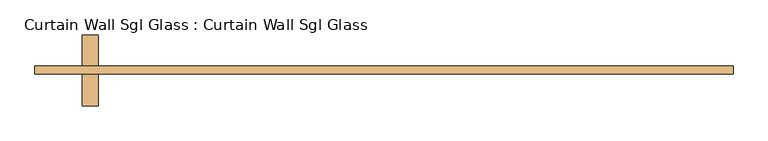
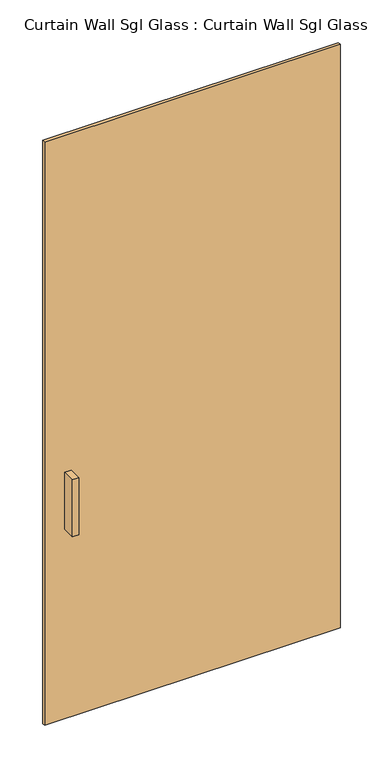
"""IFC4 building model written with IfcOpenShell, lengths in millimetres: door geometry, Curtain Wall Sgl Glass : Curtain Wall Sgl Glass."""

import ifcopenshell
import ifcopenshell.guid

model = None  # the IFC model being written
_history = None  # IfcOwnerHistory: only IFC2X3 demands one
_inside = {}  # id of a spatial element -> (the spatial element, [elements in it])
_under = {}  # id of a project, library or spatial element -> (it, [spatial elements below it])
_declared = {}  # id of a project -> (the project, [libraries it declares])
_typed = {}  # id of a type object -> (the type object, [elements of that type])
_made_of = {}  # id of a material, layer set ... -> (it, [elements and type objects made of it])


def new_model(schema):
    """Start an empty IFC model of exactly this schema.

    Asked for "IFC4X3", IfcOpenShell would pick the latest addendum, in which some entities
    have other attributes; the version numbers below select the first issue.
    IFC2X3 requires an IfcOwnerHistory on every rooted entity: one is made here for all.
    """
    global model, _history
    if schema == "IFC4X3":
        model = ifcopenshell.file(schema_version=(4, 3, 0, 0))
    else:
        model = ifcopenshell.file(schema=schema)
    _inside.clear()
    _under.clear()
    _declared.clear()
    _typed.clear()
    _made_of.clear()
    _history = None
    if model.schema == "IFC2X3":
        org = make("IfcOrganization", Name="unknown")
        user = make(
            "IfcPersonAndOrganization",
            ThePerson=make("IfcPerson", FamilyName="unknown"),
            TheOrganization=org,
        )
        app = make(
            "IfcApplication",
            ApplicationDeveloper=org,
            Version="unknown",
            ApplicationFullName="unknown",
            ApplicationIdentifier="unknown",
        )
        _history = make(
            "IfcOwnerHistory",
            OwningUser=user,
            OwningApplication=app,
            ChangeAction="ADDED",
            CreationDate=0,
        )
    return model


def make(cls, **values):
    """One entity of the class cls with the attributes given. An attribute that is None is left unset."""
    return model.create_entity(
        cls, **{name: value for name, value in values.items() if value is not None}
    )


def rooted(cls, **values):
    """An entity with a GlobalId (a new one), such as an element, a storey or a relation."""
    return make(cls, GlobalId=ifcopenshell.guid.new(), OwnerHistory=_history, **values)


def si_unit(unit_type, name, prefix=None):
    """IfcSIUnit, for example si_unit("LENGTHUNIT", "METRE", prefix="MILLI")."""
    return make("IfcSIUnit", UnitType=unit_type, Prefix=prefix, Name=name)


def assignment(units):
    """IfcUnitAssignment: the units of a project."""
    return None if units is None else make("IfcUnitAssignment", Units=units)


def point(xyz):
    """IfcCartesianPoint."""
    return None if xyz is None else make("IfcCartesianPoint", Coordinates=xyz)


def direction(xyz):
    """IfcDirection."""
    return None if xyz is None else make("IfcDirection", DirectionRatios=xyz)


def frame(location, z_axis=None, x_axis=None):
    """IfcAxis2Placement3D, a coordinate frame: its origin and axes. An axis left out is left unset."""
    return make(
        "IfcAxis2Placement3D",
        Location=point(location),
        Axis=direction(z_axis),
        RefDirection=direction(x_axis),
    )


def origin():
    """The frame at (0, 0, 0) with its axes left unset."""
    return frame((0.0, 0.0, 0.0))


def origin_with_axes():
    """The frame at (0, 0, 0) with the z axis (0, 0, 1) and the x axis (1, 0, 0) written out."""
    return frame((0.0, 0.0, 0.0), z_axis=(0.0, 0.0, 1.0), x_axis=(1.0, 0.0, 0.0))


def place(relative_to, where):
    """IfcLocalPlacement: puts the frame where relative to a parent placement (None: the world)."""
    return make(
        "IfcLocalPlacement", PlacementRelTo=relative_to, RelativePlacement=where
    )


def context(
    kind, dimensions, precision=None, world=None, true_north=None, identifier=None
):
    """IfcGeometricRepresentationContext, for example the 3D "Model" context."""
    return make(
        "IfcGeometricRepresentationContext",
        ContextIdentifier=identifier,
        ContextType=kind,
        CoordinateSpaceDimension=dimensions,
        Precision=precision,
        WorldCoordinateSystem=world,
        TrueNorth=true_north,
    )


def project(units=None, contexts=None):
    """IfcProject with its units and contexts."""
    return rooted(
        "IfcProject",
        Name="project",
        RepresentationContexts=contexts,
        UnitsInContext=assignment(units),
    )


def spatial(cls, under=None, at=None, **own):
    """A site, building, storey or space (cls), placed at a placement, below another one or the project."""
    s = rooted(cls, ObjectPlacement=at, **own)
    if under is not None:
        _under.setdefault(under.id(), (under, []))[1].append(s)
    return s


def polyline(points):
    """IfcPolyline through the points."""
    return make("IfcPolyline", Points=[point(p) for p in points])


def outline(outer, holes=None, kind="AREA"):
    """IfcArbitraryClosedProfileDef: a profile drawn as a closed curve; with holes, ...WithVoids."""
    if holes is None:
        return make("IfcArbitraryClosedProfileDef", ProfileType=kind, OuterCurve=outer)
    return make(
        "IfcArbitraryProfileDefWithVoids",
        ProfileType=kind,
        OuterCurve=outer,
        InnerCurves=holes,
    )


def extrude(swept, where, along, depth):
    """IfcExtrudedAreaSolid: the profile swept, set in the frame where, extruded along a direction by depth."""
    return make(
        "IfcExtrudedAreaSolid",
        SweptArea=swept,
        Position=where,
        ExtrudedDirection=direction(along),
        Depth=depth,
    )


def shape(context_of_items, identifier, shape_type, items):
    """IfcShapeRepresentation: the items that make up one representation, for example the "Body"."""
    return make(
        "IfcShapeRepresentation",
        ContextOfItems=context_of_items,
        RepresentationIdentifier=identifier,
        RepresentationType=shape_type,
        Items=items,
    )


def source(mapping_origin, context_of_items, identifier, shape_type, items):
    """IfcRepresentationMap: a shape defined once, which mapped items show again and again."""
    return make(
        "IfcRepresentationMap",
        MappingOrigin=mapping_origin,
        MappedRepresentation=shape(context_of_items, identifier, shape_type, items),
    )


def transform(
    local_origin,
    x_axis=None,
    y_axis=None,
    z_axis=None,
    scale=None,
    scale2=None,
    scale3=None,
    uniform=True,
):
    """IfcCartesianTransformationOperator3D, or its non-uniform kind. x_axis, y_axis, z_axis: its Axis1, 2, 3."""
    if uniform:
        return make(
            "IfcCartesianTransformationOperator3D",
            Axis1=direction(x_axis),
            Axis2=direction(y_axis),
            LocalOrigin=point(local_origin),
            Scale=scale,
            Axis3=direction(z_axis),
        )
    return make(
        "IfcCartesianTransformationOperator3DnonUniform",
        Axis1=direction(x_axis),
        Axis2=direction(y_axis),
        LocalOrigin=point(local_origin),
        Scale=scale,
        Axis3=direction(z_axis),
        Scale2=scale2,
        Scale3=scale3,
    )


def mapped(mapping_source, mapping_target):
    """IfcMappedItem: shows the shape of a source again, moved by a transform."""
    return make(
        "IfcMappedItem", MappingSource=mapping_source, MappingTarget=mapping_target
    )


def made_of(thing, what):
    """Note that an element or type object is made of a material, layer set ...; save() writes the relation."""
    if what is not None:
        _made_of.setdefault(what.id(), (what, []))[1].append(thing)
    return thing


def element(
    cls,
    number,
    at=None,
    inside=None,
    cuts=None,
    type_object=None,
    material=None,
    context=None,
    identifier="Body",
    shape_type=None,
    held_by="IfcProductDefinitionShape",
    body=None,
    shapes=None,
    **own,
):
    """One element of the class cls, such as IfcWall. Its Tag is "e" and its number.

    at: its placement. inside: the storey or other place that contains it. cuts: it is an
    opening in that element (IfcRelVoidsElement). A single representation is given by context,
    identifier, shape_type and body (its items); several are given by shapes. held_by: the class
    of the entity that holds the representations. save() writes the other relations.
    """
    e = rooted(cls, Tag="e%d" % number, ObjectPlacement=at, **own)
    if body is not None:
        shapes = [shape(context, identifier, shape_type, body)]
    if shapes is not None:
        e.Representation = make(held_by, Representations=shapes)
    if inside is not None:
        _inside.setdefault(inside.id(), (inside, []))[1].append(e)
    if cuts is not None:
        rooted(
            "IfcRelVoidsElement", RelatingBuildingElement=cuts, RelatedOpeningElement=e
        )
    if type_object is not None:
        _typed.setdefault(type_object.id(), (type_object, []))[1].append(e)
    return made_of(e, material)


def aggregate(whole, parts):
    """IfcRelAggregates: a whole, such as a stair, and the parts it consists of."""
    return rooted("IfcRelAggregates", RelatingObject=whole, RelatedObjects=parts)


def save(model, path):
    """Write the relations noted so far, then the file.

    IfcRelAggregates (storeys below a building ...), IfcRelContainedInSpatialStructure (elements
    in a storey), IfcRelDefinesByType, IfcRelAssociatesMaterial and IfcRelDeclares: one each for
    every whole, place, type object, material and project.
    """
    for whole, parts in _under.values():
        aggregate(whole, parts)
    for where, things in _inside.values():
        rooted(
            "IfcRelContainedInSpatialStructure",
            RelatedElements=things,
            RelatingStructure=where,
        )
    for kind, things in _typed.values():
        rooted("IfcRelDefinesByType", RelatedObjects=things, RelatingType=kind)
    for what, things in _made_of.values():
        rooted("IfcRelAssociatesMaterial", RelatedObjects=things, RelatingMaterial=what)
    for by, libraries in _declared.values():
        rooted("IfcRelDeclares", RelatingContext=by, RelatedDefinitions=libraries)
    model.write(path)


def curtain_wall_sgl_glass_curtain_wall_sgl_glass_8fcb11fa(model_context):
    return source(origin(), model_context, "Body", "SweptSolid", [
        extrude(outline(polyline([(-460.375, 12.7), (-460.375, -38.1), (-485.775, -38.1), (-485.775, 12.7), (-460.375, 12.7)])), frame((0.0, 0.0, 762.0), z_axis=(0.0, 0.0, 1.0), x_axis=(1.0, 0.0, 0.0)), (0.0, 0.0, 1.0), 228.6),
        extrude(outline(polyline([(-485.775, -101.6), (-485.775, -50.8), (-460.375, -50.8), (-460.375, -101.6), (-485.775, -101.6)])), frame((0.0, 0.0, 762.0), z_axis=(0.0, 0.0, 1.0), x_axis=(1.0, 0.0, 0.0)), (0.0, 0.0, 1.0), 228.6),
        extrude(outline(polyline([(561.975, -50.8), (-561.975, -50.8), (-561.975, -38.1), (561.975, -38.1), (561.975, -50.8)])), origin_with_axes(), (0.0, 0.0, 1.0), 2343.15),
    ])


if __name__ == "__main__":
    model = new_model("IFC4")
    model_context = context("Model", 3, world=origin())
    ifc_project = project(units=[si_unit("LENGTHUNIT", "METRE", prefix="MILLI")], contexts=[model_context])
    site = spatial("IfcSite", under=ifc_project)
    building = spatial("IfcBuilding", under=site)
    placement = place(None, origin())
    curtain_wall_sgl_glass_curtain_wall_sgl_glass_shape = curtain_wall_sgl_glass_curtain_wall_sgl_glass_8fcb11fa(model_context)
    element("IfcDoor", 1, ObjectType="Curtain Wall Sgl Glass : Curtain Wall Sgl Glass", at=placement, inside=building, context=model_context, shape_type="MappedRepresentation", body=[
        mapped(curtain_wall_sgl_glass_curtain_wall_sgl_glass_shape, transform((0.0, 0.0, 0.0), x_axis=(1.0, 0.0, 0.0), y_axis=(0.0, 1.0, 0.0), z_axis=(0.0, 0.0, 1.0))),
    ])
    save(model, "model.ifc")
